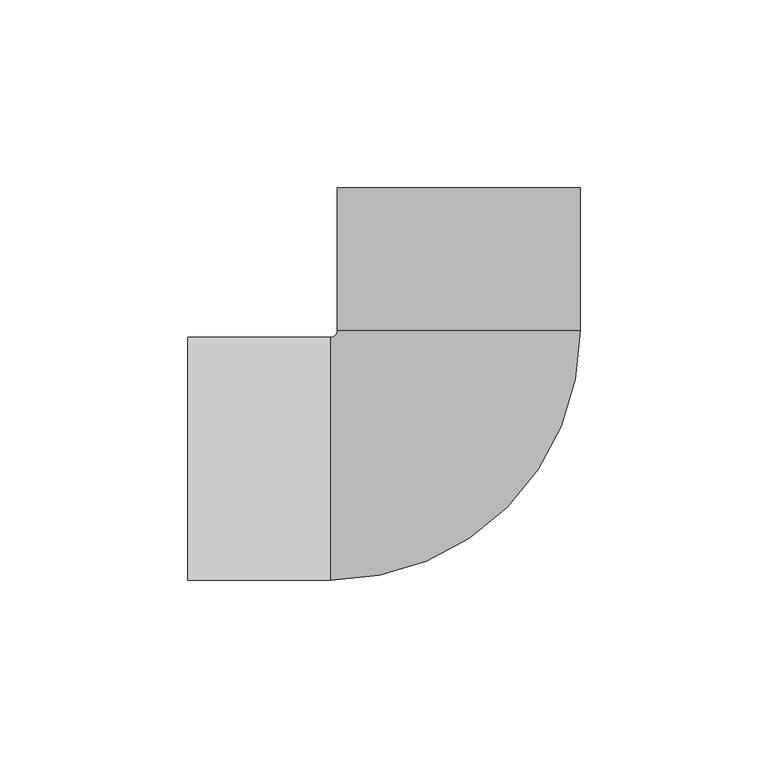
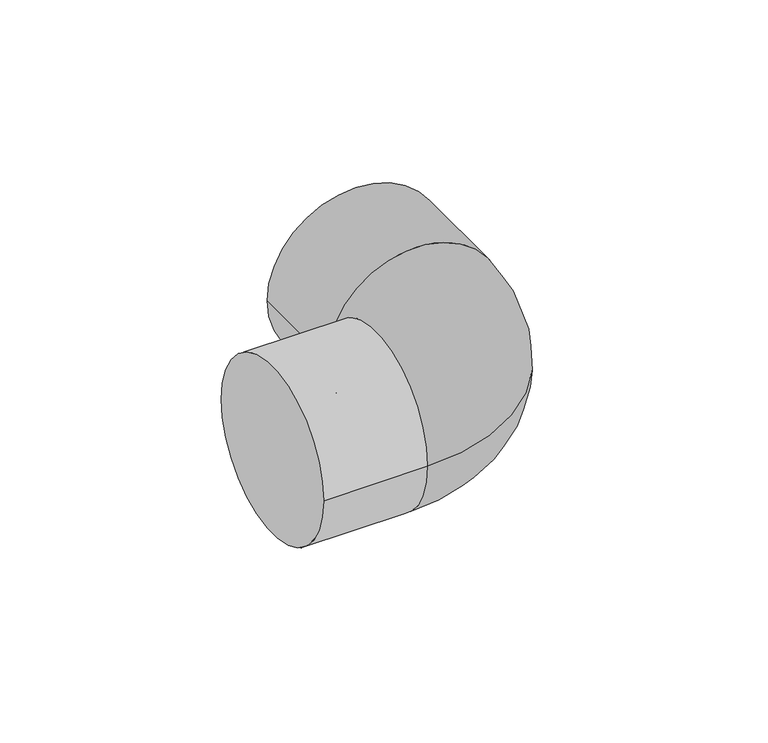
"""IFC4 building model written with IfcOpenShell, lengths in millimetres: pipe fitting geometry, 01051001 : Coudes à 90º."""

from ifc_helpers import new_model, si_unit, point, frame, origin, place, context, project, spatial, circle_curve, ellipse_curve, trimmed, source, transform, mapped, element, save
from ifc_brep_helpers import plane_surface, cylinder_surface, revolved_surface, advanced_brep


def pipe_fitting_6200336e(model_context):
    return source(origin(), model_context, "Body", "AdvancedBrep", [
        advanced_brep(
        [(-34.0, -32.3, 0.0), (32.3, 34.0, 0.0), (-32.3, 34.0, 0.0), (-34.0, 32.3, 0.0), (-32.3, 72.0, 0.0), (32.3, 72.0, 0.0), (-72.0, 32.3, 0.0), (-72.0, -32.3, 0.0)],
        [
            (0, 1, circle_curve(frame((-34.0, 34.0, 0.0), z_axis=(0.0, 0.0, 1.0), x_axis=(1.0, 0.0, 0.0)), 66.3)),
            (1, 2, circle_curve(frame((0.0, 34.0, 0.0), z_axis=(0.0, -1.0, 0.0), x_axis=(1.0, 0.0, 0.0)), 32.3)),
            (2, 3, circle_curve(frame((-34.0, 34.0, 0.0), z_axis=(0.0, 0.0, -1.0), x_axis=(1.0, 0.0, 0.0)), 1.7)),
            (3, 0, circle_curve(frame((-34.0, 0.0, 0.0), z_axis=(1.0, 0.0, 0.0), x_axis=(0.0, -1.0, 0.0)), 32.3)),
            (2, 1, circle_curve(frame((0.0, 34.0, 0.0), z_axis=(0.0, -1.0, 0.0), x_axis=(1.0, 0.0, 0.0)), 32.3)),
            (0, 3, circle_curve(frame((-34.0, 0.0, 0.0), z_axis=(1.0, 0.0, 0.0), x_axis=(0.0, -1.0, 0.0)), 32.3)),
            (4, 5, circle_curve(frame((0.0, 72.0, 0.0), z_axis=(0.0, 1.0, 0.0), x_axis=(1.0, 0.0, 0.0)), 32.3)),
            (5, 4, circle_curve(frame((0.0, 72.0, 0.0), z_axis=(0.0, 1.0, 0.0), x_axis=(1.0, 0.0, 0.0)), 32.3)),
            (4, 2),
            (1, 5),
            (6, 7, circle_curve(frame((-72.0, 0.0, 0.0), z_axis=(-1.0, 0.0, 0.0), x_axis=(0.0, -1.0, 0.0)), 32.3)),
            (7, 6, circle_curve(frame((-72.0, 0.0, 0.0), z_axis=(-1.0, 0.0, 0.0), x_axis=(0.0, -1.0, 0.0)), 32.3)),
            (3, 6),
            (7, 0),
        ],
        [
            revolved_surface(trimmed(ellipse_curve(frame((0.0, 34.0, 0.0), z_axis=(0.0, 1.0, 0.0), x_axis=(1.0, 0.0, 0.0)), 32.3, 32.3), [point((-32.3, 34.0, 0.0))], [point((32.3, 34.0, 0.0))], True, "CARTESIAN"), (-34.0, 34.0, 0.0), (0.0, 0.0, -1.0)),
            revolved_surface(trimmed(ellipse_curve(frame((0.0, 34.0, 0.0), z_axis=(0.0, 1.0, 0.0), x_axis=(1.0, 0.0, 0.0)), 32.3, 32.3), [point((32.3, 34.0, 0.0))], [point((-32.3, 34.0, 0.0))], True, "CARTESIAN"), (-34.0, 34.0, 0.0), (0.0, 0.0, -1.0)),
            plane_surface(frame((0.0, 72.0, 0.0), z_axis=(0.0, 1.0, 0.0), x_axis=(0.0, 0.0, 1.0))),
            cylinder_surface(frame((0.0, 72.0, 0.0), z_axis=(0.0, 1.0, 0.0), x_axis=(1.0, 0.0, 0.0)), 32.3),
            plane_surface(frame((-72.0, 0.0, 0.0), z_axis=(-1.0, 0.0, 0.0), x_axis=(0.0, 0.0, 1.0))),
            cylinder_surface(frame((-34.0, 0.0, 0.0), z_axis=(1.0, 0.0, 0.0), x_axis=(0.0, -1.0, 0.0)), 32.3),
        ],
        [
            (0, [[1, 2, 3, 4]]),
            (1, [[-3, 5, -1, 6]]),
            (2, [[7, 8]]),
            (3, [[-7, 9, -2, 10]]),
            (3, [[-8, -10, -5, -9]]),
            (4, [[11, 12]]),
            (5, [[-4, 13, -12, 14]]),
            (5, [[-6, -14, -11, -13]]),
        ],
    ),
    ])


if __name__ == "__main__":
    model = new_model("IFC4")
    model_context = context("Model", 3, world=origin())
    ifc_project = project(units=[si_unit("LENGTHUNIT", "METRE", prefix="MILLI")], contexts=[model_context])
    site = spatial("IfcSite", under=ifc_project)
    building = spatial("IfcBuilding", under=site)
    placement = place(None, origin())
    pipe_fitting_shape = pipe_fitting_6200336e(model_context)
    element("IfcPipeFitting", 1, ObjectType="01051001 : Coudes à 90º", at=placement, inside=building, context=model_context, shape_type="MappedRepresentation", body=[
        mapped(pipe_fitting_shape, transform((0.0, 0.0, 0.0), x_axis=(1.0, 0.0, 0.0), y_axis=(0.0, 1.0, 0.0), z_axis=(0.0, 0.0, 1.0))),
    ])
    save(model, "model.ifc")
